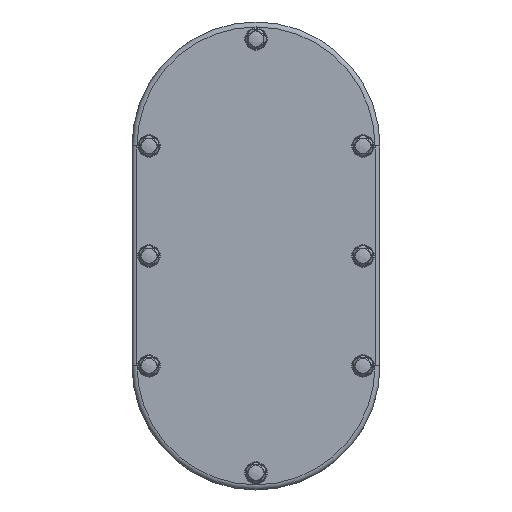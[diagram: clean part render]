
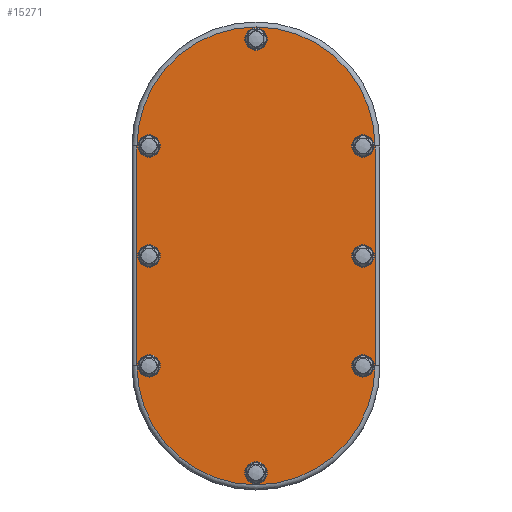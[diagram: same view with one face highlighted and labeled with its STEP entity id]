
A CAD part, top view. The second image highlights one B-rep face of the part: STEP entity #15271.
In plain terms, the highlighted planar face has unit normal (0, 0, 1).
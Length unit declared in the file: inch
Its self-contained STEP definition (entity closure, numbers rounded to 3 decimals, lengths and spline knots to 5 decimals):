
#180 = AXIS2_PLACEMENT_3D ( 'NONE', #75577, #42883, #17413 ) ;
#3168 = DIRECTION ( 'NONE',  ( -1., 0., 0. ) ) ;
#4675 = FACE_BOUND ( 'NONE', #75461, .T. ) ;
#5133 = ORIENTED_EDGE ( 'NONE', *, *, #68650, .T. ) ;
#6681 = AXIS2_PLACEMENT_3D ( 'NONE', #75347, #36714, #44748 ) ;
#7303 = CARTESIAN_POINT ( 'NONE',  ( -1.91294, 4.38808, 3.97463 ) ) ;
#7663 = CARTESIAN_POINT ( 'NONE',  ( 0., 6.52308, 3.97463 ) ) ;
#8034 = VERTEX_POINT ( 'NONE', #45821 ) ;
#8622 = CIRCLE ( 'NONE', #12689, 0.22206 ) ;
#9160 = EDGE_LOOP ( 'NONE', ( #76654 ) ) ;
#9369 = AXIS2_PLACEMENT_3D ( 'NONE', #44801, #69459, #11686 ) ;
#11027 = CARTESIAN_POINT ( 'NONE',  ( 2.37657, 0., 3.97463 ) ) ;
#11452 = FACE_BOUND ( 'NONE', #72548, .T. ) ;
#11686 = DIRECTION ( 'NONE',  ( -1., 0., 0. ) ) ;
#12689 = AXIS2_PLACEMENT_3D ( 'NONE', #46222, #72976, #40700 ) ;
#12816 = ORIENTED_EDGE ( 'NONE', *, *, #13274, .T. ) ;
#13274 = EDGE_CURVE ( 'NONE', #57155, #28104, #28361, .T. ) ;
#13545 = VERTEX_POINT ( 'NONE', #78955 ) ;
#13662 = CARTESIAN_POINT ( 'NONE',  ( -2.37657, 0., 3.97463 ) ) ;
#13834 = DIRECTION ( 'NONE',  ( 0., -1., 0. ) ) ;
#14365 = CARTESIAN_POINT ( 'NONE',  ( -0.22206, -2.135, 3.97463 ) ) ;
#14422 = DIRECTION ( 'NONE',  ( 1., 0., 0. ) ) ;
#14591 = DIRECTION ( 'NONE',  ( 1., 0., 0. ) ) ;
#14896 = CIRCLE ( 'NONE', #58317, 0.22206 ) ;
#15263 = DIRECTION ( 'NONE',  ( 0., 0., 1. ) ) ;
#15271 = ADVANCED_FACE ( 'NONE', ( #82831, #49664, #11452, #4675, #24219, #81983, #64096, #57312, #82402 ), #69630, .F. ) ;
#15610 = DIRECTION ( 'NONE',  ( 0., 0., 1. ) ) ;
#16445 = CARTESIAN_POINT ( 'NONE',  ( 0., -2.135, 3.97463 ) ) ;
#17413 = DIRECTION ( 'NONE',  ( -1., 0., 0. ) ) ;
#19120 = VERTEX_POINT ( 'NONE', #83270 ) ;
#19409 = CIRCLE ( 'NONE', #70949, 0.22206 ) ;
#19455 = CIRCLE ( 'NONE', #66936, 0.22206 ) ;
#20091 = EDGE_CURVE ( 'NONE', #13545, #13545, #43043, .T. ) ;
#20583 = EDGE_LOOP ( 'NONE', ( #31587, #5133, #12816, #24768 ) ) ;
#21211 = CARTESIAN_POINT ( 'NONE',  ( -2.135, 2.19404, 3.97463 ) ) ;
#21252 = DIRECTION ( 'NONE',  ( 0., 0., 1. ) ) ;
#21308 = AXIS2_PLACEMENT_3D ( 'NONE', #21211, #15263, #14422 ) ;
#23057 = CARTESIAN_POINT ( 'NONE',  ( -2.135, 0., 3.97463 ) ) ;
#23655 = DIRECTION ( 'NONE',  ( 0., 0., 1. ) ) ;
#24219 = FACE_BOUND ( 'NONE', #27953, .T. ) ;
#24768 = ORIENTED_EDGE ( 'NONE', *, *, #66497, .T. ) ;
#26070 = EDGE_CURVE ( 'NONE', #81056, #81056, #14896, .T. ) ;
#26375 = ORIENTED_EDGE ( 'NONE', *, *, #73968, .F. ) ;
#26444 = VERTEX_POINT ( 'NONE', #52335 ) ;
#27953 = EDGE_LOOP ( 'NONE', ( #26375 ) ) ;
#28104 = VERTEX_POINT ( 'NONE', #11027 ) ;
#28361 = CIRCLE ( 'NONE', #6681, 2.37657 ) ;
#28383 = CARTESIAN_POINT ( 'NONE',  ( -2.37657, 4.38808, 3.97463 ) ) ;
#28399 = VECTOR ( 'NONE', #71660, 39.37008 ) ;
#28522 = VERTEX_POINT ( 'NONE', #81204 ) ;
#29600 = DIRECTION ( 'NONE',  ( -1., 0., 0. ) ) ;
#29812 = DIRECTION ( 'NONE',  ( 0., 0., 1. ) ) ;
#30416 = AXIS2_PLACEMENT_3D ( 'NONE', #7663, #21252, #40349 ) ;
#31254 = LINE ( 'NONE', #76700, #72054 ) ;
#31409 = ORIENTED_EDGE ( 'NONE', *, *, #20091, .F. ) ;
#31587 = ORIENTED_EDGE ( 'NONE', *, *, #52686, .T. ) ;
#31736 = LINE ( 'NONE', #38534, #28399 ) ;
#35148 = DIRECTION ( 'NONE',  ( -1., 0., 0. ) ) ;
#35381 = CARTESIAN_POINT ( 'NONE',  ( -2.135, 4.38808, 3.97463 ) ) ;
#36512 = CARTESIAN_POINT ( 'NONE',  ( 2.37657, 4.38808, 3.97463 ) ) ;
#36556 = CARTESIAN_POINT ( 'NONE',  ( -1.91294, 0., 3.97463 ) ) ;
#36714 = DIRECTION ( 'NONE',  ( 0., 0., 1. ) ) ;
#37007 = DIRECTION ( 'NONE',  ( 1., 0., 0. ) ) ;
#38534 = CARTESIAN_POINT ( 'NONE',  ( 2.37657, 4.38808, 3.97463 ) ) ;
#40208 = EDGE_LOOP ( 'NONE', ( #49150 ) ) ;
#40349 = DIRECTION ( 'NONE',  ( 0., 1., 0. ) ) ;
#40700 = DIRECTION ( 'NONE',  ( -1., 0., 0. ) ) ;
#42255 = EDGE_CURVE ( 'NONE', #8034, #8034, #55199, .T. ) ;
#42883 = DIRECTION ( 'NONE',  ( 0., 0., -1. ) ) ;
#43043 = CIRCLE ( 'NONE', #52578, 0.22206 ) ;
#43928 = CIRCLE ( 'NONE', #30416, 0.22206 ) ;
#44748 = DIRECTION ( 'NONE',  ( -1., 0., 0. ) ) ;
#44801 = CARTESIAN_POINT ( 'NONE',  ( 0., 4.38808, 3.97463 ) ) ;
#45821 = CARTESIAN_POINT ( 'NONE',  ( -1.91294, 2.19404, 3.97463 ) ) ;
#46005 = ORIENTED_EDGE ( 'NONE', *, *, #73610, .F. ) ;
#46222 = CARTESIAN_POINT ( 'NONE',  ( 2.135, 4.38808, 3.97463 ) ) ;
#47627 = VERTEX_POINT ( 'NONE', #7303 ) ;
#47835 = EDGE_LOOP ( 'NONE', ( #53080 ) ) ;
#48559 = AXIS2_PLACEMENT_3D ( 'NONE', #67283, #61338, #3168 ) ;
#49150 = ORIENTED_EDGE ( 'NONE', *, *, #42255, .F. ) ;
#49664 = FACE_BOUND ( 'NONE', #40208, .T. ) ;
#52335 = CARTESIAN_POINT ( 'NONE',  ( 1.91294, 4.38808, 3.97463 ) ) ;
#52578 = AXIS2_PLACEMENT_3D ( 'NONE', #75440, #15610, #35148 ) ;
#52686 = EDGE_CURVE ( 'NONE', #79999, #57480, #66353, .T. ) ;
#53080 = ORIENTED_EDGE ( 'NONE', *, *, #78186, .F. ) ;
#53951 = CIRCLE ( 'NONE', #48559, 0.22206 ) ;
#55199 = CIRCLE ( 'NONE', #21308, 0.22206 ) ;
#57107 = EDGE_LOOP ( 'NONE', ( #67106 ) ) ;
#57155 = VERTEX_POINT ( 'NONE', #13662 ) ;
#57312 = FACE_BOUND ( 'NONE', #57107, .T. ) ;
#57480 = VERTEX_POINT ( 'NONE', #28383 ) ;
#58058 = ORIENTED_EDGE ( 'NONE', *, *, #71282, .F. ) ;
#58317 = AXIS2_PLACEMENT_3D ( 'NONE', #16445, #23655, #29600 ) ;
#61293 = DIRECTION ( 'NONE',  ( 0., 0., 1. ) ) ;
#61338 = DIRECTION ( 'NONE',  ( 0., 0., 1. ) ) ;
#61633 = VERTEX_POINT ( 'NONE', #36556 ) ;
#64096 = FACE_BOUND ( 'NONE', #66913, .T. ) ;
#66353 = CIRCLE ( 'NONE', #9369, 2.37657 ) ;
#66497 = EDGE_CURVE ( 'NONE', #28104, #79999, #31736, .T. ) ;
#66913 = EDGE_LOOP ( 'NONE', ( #31409 ) ) ;
#66936 = AXIS2_PLACEMENT_3D ( 'NONE', #23057, #29812, #37007 ) ;
#67106 = ORIENTED_EDGE ( 'NONE', *, *, #70770, .F. ) ;
#67283 = CARTESIAN_POINT ( 'NONE',  ( 2.135, 0., 3.97463 ) ) ;
#68650 = EDGE_CURVE ( 'NONE', #57480, #57155, #31254, .T. ) ;
#69459 = DIRECTION ( 'NONE',  ( 0., 0., 1. ) ) ;
#69630 = PLANE ( 'NONE',  #180 ) ;
#70770 = EDGE_CURVE ( 'NONE', #47627, #47627, #19409, .T. ) ;
#70949 = AXIS2_PLACEMENT_3D ( 'NONE', #35381, #61293, #14591 ) ;
#71282 = EDGE_CURVE ( 'NONE', #26444, #26444, #8622, .T. ) ;
#71660 = DIRECTION ( 'NONE',  ( 0., 1., 0. ) ) ;
#72054 = VECTOR ( 'NONE', #13834, 39.37008 ) ;
#72548 = EDGE_LOOP ( 'NONE', ( #46005 ) ) ;
#72976 = DIRECTION ( 'NONE',  ( 0., 0., 1. ) ) ;
#73610 = EDGE_CURVE ( 'NONE', #61633, #61633, #19455, .T. ) ;
#73968 = EDGE_CURVE ( 'NONE', #28522, #28522, #43928, .T. ) ;
#75347 = CARTESIAN_POINT ( 'NONE',  ( 0., 0., 3.97463 ) ) ;
#75440 = CARTESIAN_POINT ( 'NONE',  ( 2.135, 2.19404, 3.97463 ) ) ;
#75461 = EDGE_LOOP ( 'NONE', ( #58058 ) ) ;
#75577 = CARTESIAN_POINT ( 'NONE',  ( 0., 4.38808, 3.97463 ) ) ;
#76654 = ORIENTED_EDGE ( 'NONE', *, *, #26070, .F. ) ;
#76700 = CARTESIAN_POINT ( 'NONE',  ( -2.37657, 4.38808, 3.97463 ) ) ;
#78186 = EDGE_CURVE ( 'NONE', #19120, #19120, #53951, .T. ) ;
#78955 = CARTESIAN_POINT ( 'NONE',  ( 1.91294, 2.19404, 3.97463 ) ) ;
#79999 = VERTEX_POINT ( 'NONE', #36512 ) ;
#81056 = VERTEX_POINT ( 'NONE', #14365 ) ;
#81204 = CARTESIAN_POINT ( 'NONE',  ( 0., 6.74514, 3.97463 ) ) ;
#81983 = FACE_BOUND ( 'NONE', #9160, .T. ) ;
#82402 = FACE_OUTER_BOUND ( 'NONE', #20583, .T. ) ;
#82831 = FACE_BOUND ( 'NONE', #47835, .T. ) ;
#83270 = CARTESIAN_POINT ( 'NONE',  ( 1.91294, 0., 3.97463 ) ) ;
